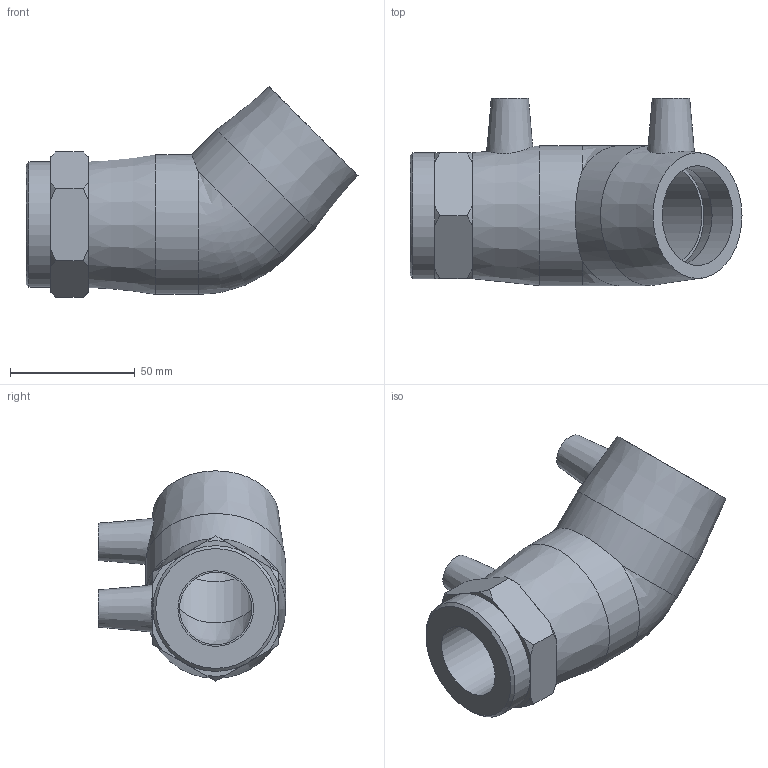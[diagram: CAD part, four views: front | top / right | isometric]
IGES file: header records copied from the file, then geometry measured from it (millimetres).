
Global section: file name: 493604040010.ipt; native system: Autodesk Inventor 2015; preprocessor: unknown; author: KIM; date: 20200202.122456; units: millimetre
Bounding box: 133 x 75 x 84.27 mm (x, y, z)
Volume: 187021.4 mm3; surface area: 45333.5 mm2
Topology: 1 solids, 2 shells, 61 faces, 150 edges, 100 vertices
Faces by surface type: plane 27, cone 17, revolution 9, cylinder 7, bspline 1
Full cylindrical faces by diameter (mm): 4 x2, 40 x2, 50.4 x1, 56 x2
